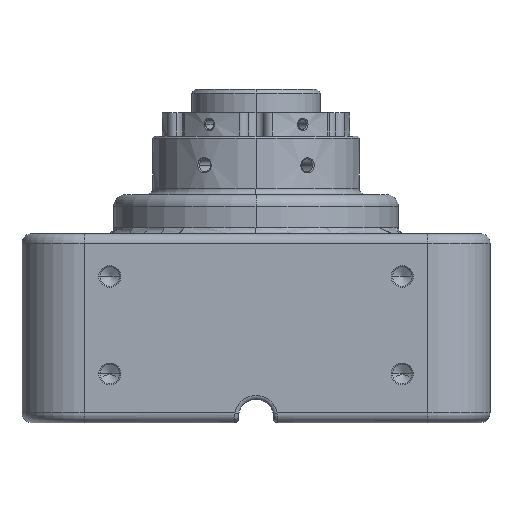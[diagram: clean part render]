
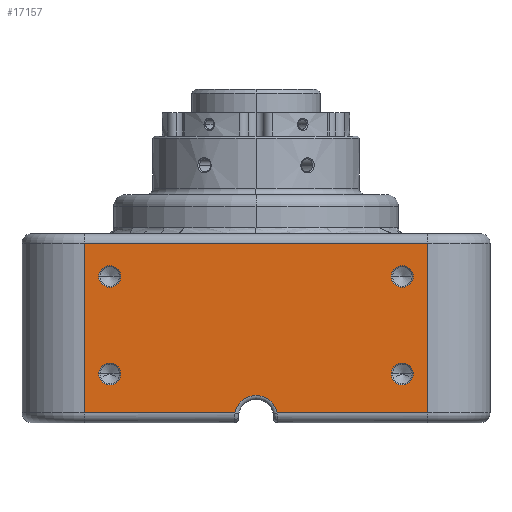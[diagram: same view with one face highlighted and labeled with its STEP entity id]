
A CAD part, left-side view. The second image highlights one B-rep face of the part: STEP entity #17157.
In plain terms, the highlighted planar face has unit normal (-1, 0, 0).
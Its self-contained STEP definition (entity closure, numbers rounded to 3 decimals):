
#2675=CARTESIAN_POINT('',(-60.,5.408,2.5));
#2730=CARTESIAN_POINT('',(-60.,0.,1.5));
#2731=DIRECTION('',(1.,0.,0.));
#2732=DIRECTION('',(0.,0.983,0.182));
#2733=AXIS2_PLACEMENT_3D('',#2730,#2731,#2732);
#2738=DIRECTION('',(0.,1.,0.));
#2739=VECTOR('',#2738,38.592);
#2740=CARTESIAN_POINT('',(-60.,5.408,2.5));
#2741=LINE('',#2740,#2739);
#2745=DIRECTION('',(0.,0.,-1.));
#2746=VECTOR('',#2745,43.5);
#2747=CARTESIAN_POINT('',(-60.,44.,46.));
#2748=LINE('',#2747,#2746);
#2752=DIRECTION('',(0.,-1.,0.));
#2753=VECTOR('',#2752,88.);
#2754=CARTESIAN_POINT('',(-60.,44.,46.));
#2755=LINE('',#2754,#2753);
#2759=DIRECTION('',(0.,0.,-1.));
#2760=VECTOR('',#2759,43.5);
#2761=CARTESIAN_POINT('',(-60.,-44.,46.));
#2762=LINE('',#2761,#2760);
#2766=DIRECTION('',(0.,1.,0.));
#2767=VECTOR('',#2766,38.592);
#2768=CARTESIAN_POINT('',(-60.,-44.,2.5));
#2769=LINE('',#2768,#2767);
#2773=CARTESIAN_POINT('',(-60.,-37.5,37.5));
#2774=DIRECTION('',(1.,0.,0.));
#2775=DIRECTION('',(0.,1.,0.));
#2776=AXIS2_PLACEMENT_3D('',#2773,#2774,#2775);
#2781=CARTESIAN_POINT('',(-60.,-37.5,37.5));
#2782=DIRECTION('',(1.,0.,0.));
#2783=DIRECTION('',(0.,-1.,0.));
#2784=AXIS2_PLACEMENT_3D('',#2781,#2782,#2783);
#2789=CARTESIAN_POINT('',(-60.,37.5,37.5));
#2790=DIRECTION('',(1.,0.,0.));
#2791=DIRECTION('',(0.,1.,0.));
#2792=AXIS2_PLACEMENT_3D('',#2789,#2790,#2791);
#2797=CARTESIAN_POINT('',(-60.,37.5,37.5));
#2798=DIRECTION('',(1.,0.,0.));
#2799=DIRECTION('',(0.,-1.,0.));
#2800=AXIS2_PLACEMENT_3D('',#2797,#2798,#2799);
#2805=CARTESIAN_POINT('',(-60.,37.5,12.5));
#2806=DIRECTION('',(1.,0.,0.));
#2807=DIRECTION('',(0.,-1.,0.));
#2808=AXIS2_PLACEMENT_3D('',#2805,#2806,#2807);
#2813=CARTESIAN_POINT('',(-60.,37.5,12.5));
#2814=DIRECTION('',(1.,0.,0.));
#2815=DIRECTION('',(0.,1.,0.));
#2816=AXIS2_PLACEMENT_3D('',#2813,#2814,#2815);
#2821=CARTESIAN_POINT('',(-60.,-37.5,12.5));
#2822=DIRECTION('',(1.,0.,0.));
#2823=DIRECTION('',(0.,1.,0.));
#2824=AXIS2_PLACEMENT_3D('',#2821,#2822,#2823);
#2829=CARTESIAN_POINT('',(-60.,-37.5,12.5));
#2830=DIRECTION('',(1.,0.,0.));
#2831=DIRECTION('',(0.,-1.,0.));
#2832=AXIS2_PLACEMENT_3D('',#2829,#2830,#2831);
#13361=CARTESIAN_POINT('',(-60.,44.,46.));
#13362=VERTEX_POINT('',#13361);
#13365=CARTESIAN_POINT('',(-60.,-44.,46.));
#13366=VERTEX_POINT('',#13365);
#13373=CARTESIAN_POINT('',(-60.,44.,2.5));
#13374=VERTEX_POINT('',#13373);
#13375=CARTESIAN_POINT('',(-60.,-44.,2.5));
#13376=VERTEX_POINT('',#13375);
#14073=VERTEX_POINT('',#2675);
#14075=CARTESIAN_POINT('',(-60.,-5.408,2.5));
#14076=VERTEX_POINT('',#14075);
#14573=CARTESIAN_POINT('',(-60.,-34.7,37.5));
#14574=CARTESIAN_POINT('',(-60.,-40.3,37.5));
#14575=VERTEX_POINT('',#14573);
#14576=VERTEX_POINT('',#14574);
#14581=CARTESIAN_POINT('',(-60.,40.3,37.5));
#14582=CARTESIAN_POINT('',(-60.,34.7,37.5));
#14583=VERTEX_POINT('',#14581);
#14584=VERTEX_POINT('',#14582);
#14589=CARTESIAN_POINT('',(-60.,34.7,12.5));
#14590=CARTESIAN_POINT('',(-60.,40.3,12.5));
#14591=VERTEX_POINT('',#14589);
#14592=VERTEX_POINT('',#14590);
#14597=CARTESIAN_POINT('',(-60.,-34.7,12.5));
#14598=CARTESIAN_POINT('',(-60.,-40.3,12.5));
#14599=VERTEX_POINT('',#14597);
#14600=VERTEX_POINT('',#14598);
#17118=CARTESIAN_POINT('',(-60.,60.,0.));
#17119=DIRECTION('',(-1.,0.,0.));
#17120=DIRECTION('',(0.,-1.,0.));
#17121=AXIS2_PLACEMENT_3D('',#17118,#17119,#17120);
#17122=PLANE('',#17121);
#17124=ORIENTED_EDGE('',*,*,#17123,.F.);
#17125=ORIENTED_EDGE('',*,*,#17068,.T.);
#17126=ORIENTED_EDGE('',*,*,#17111,.F.);
#17127=ORIENTED_EDGE('',*,*,#15753,.T.);
#17129=ORIENTED_EDGE('',*,*,#17128,.T.);
#17130=ORIENTED_EDGE('',*,*,#17082,.T.);
#17131=EDGE_LOOP('',(#17124,#17125,#17126,#17127,#17129,#17130));
#17132=FACE_OUTER_BOUND('',#17131,.F.);
#17134=ORIENTED_EDGE('',*,*,#17133,.F.);
#17136=ORIENTED_EDGE('',*,*,#17135,.F.);
#17137=EDGE_LOOP('',(#17134,#17136));
#17138=FACE_BOUND('',#17137,.F.);
#17140=ORIENTED_EDGE('',*,*,#17139,.F.);
#17142=ORIENTED_EDGE('',*,*,#17141,.F.);
#17143=EDGE_LOOP('',(#17140,#17142));
#17144=FACE_BOUND('',#17143,.F.);
#17146=ORIENTED_EDGE('',*,*,#17145,.F.);
#17148=ORIENTED_EDGE('',*,*,#17147,.F.);
#17149=EDGE_LOOP('',(#17146,#17148));
#17150=FACE_BOUND('',#17149,.F.);
#17152=ORIENTED_EDGE('',*,*,#17151,.F.);
#17154=ORIENTED_EDGE('',*,*,#17153,.F.);
#17155=EDGE_LOOP('',(#17152,#17154));
#17156=FACE_BOUND('',#17155,.F.);
#2734=CIRCLE('',#2733,5.5);
#2777=CIRCLE('',#2776,2.8);
#2785=CIRCLE('',#2784,2.8);
#2793=CIRCLE('',#2792,2.8);
#2801=CIRCLE('',#2800,2.8);
#2809=CIRCLE('',#2808,2.8);
#2817=CIRCLE('',#2816,2.8);
#2825=CIRCLE('',#2824,2.8);
#2833=CIRCLE('',#2832,2.8);
#15753=EDGE_CURVE('',#13362,#13366,#2755,.T.);
#17068=EDGE_CURVE('',#14073,#13374,#2741,.T.);
#17082=EDGE_CURVE('',#13376,#14076,#2769,.T.);
#17111=EDGE_CURVE('',#13362,#13374,#2748,.T.);
#17123=EDGE_CURVE('',#14073,#14076,#2734,.T.);
#17128=EDGE_CURVE('',#13366,#13376,#2762,.T.);
#17133=EDGE_CURVE('',#14575,#14576,#2777,.T.);
#17135=EDGE_CURVE('',#14576,#14575,#2785,.T.);
#17139=EDGE_CURVE('',#14583,#14584,#2793,.T.);
#17141=EDGE_CURVE('',#14584,#14583,#2801,.T.);
#17145=EDGE_CURVE('',#14591,#14592,#2809,.T.);
#17147=EDGE_CURVE('',#14592,#14591,#2817,.T.);
#17151=EDGE_CURVE('',#14599,#14600,#2825,.T.);
#17153=EDGE_CURVE('',#14600,#14599,#2833,.T.);
#17157=ADVANCED_FACE('',(#17132,#17138,#17144,#17150,#17156),#17122,.T.);
